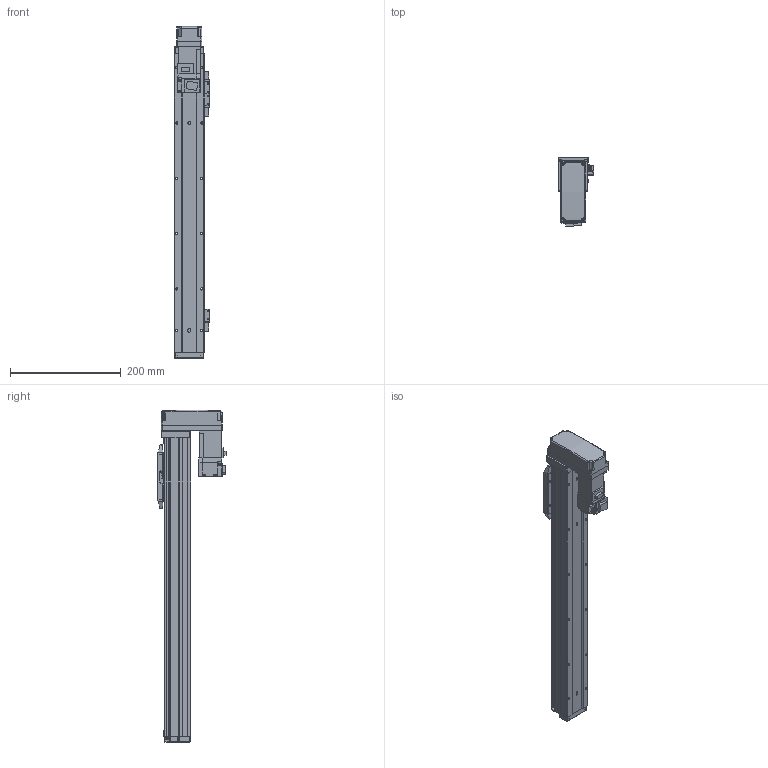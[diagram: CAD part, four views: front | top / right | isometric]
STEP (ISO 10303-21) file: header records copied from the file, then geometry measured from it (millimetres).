
FILE_DESCRIPTION (( 'STEP AP214' ), '1' );
FILE_NAME ('N_GRH5-400-BM-M10.step', '2025-03-14T10:50:51', ( '' ), ( '' ), 'SwSTEP 2.0', 'SolidWorks 2016', '' );
FILE_SCHEMA (( 'AUTOMOTIVE_DESIGN' ));
Length unit declared in the file: millimetre
Products named in the file (5): N_GRH5-BL-008^N_GRH5-400-BM-M10; N_GRH5-GY-011^N_GRH5-400-BM-M10; N_GRH5-400-BM-M10; HF-KP13_100W_Motor^N_GRH5-400-BM-M10; N_GRH5-GY-004^N_GRH5-400-BM-M10
Assembly tree (4 placements, depth 2):
  N_GRH5-400-BM-M10
    N_GRH5-GY-011^N_GRH5-400-BM-M10
    N_GRH5-GY-004^N_GRH5-400-BM-M10
    HF-KP13_100W_Motor^N_GRH5-400-BM-M10
    N_GRH5-BL-008^N_GRH5-400-BM-M10
Bounding box: 64.05 x 123.7 x 600.5 mm (x, y, z)
Volume: 1245878.6 mm3; surface area: 306947.8 mm2
Topology: 4 solids, 5 shells, 944 faces, 2408 edges, 1525 vertices
Faces by surface type: plane 549, cylinder 320, cone 50, bspline 15, sphere 10
Entity records: 35939 total; most frequent: CARTESIAN_POINT 5643, DIRECTION 4865, ORIENTED_EDGE 4752, EDGE_CURVE 2376, VECTOR 1643, LINE 1643, AXIS2_PLACEMENT_3D 1611, VERTEX_POINT 1523
